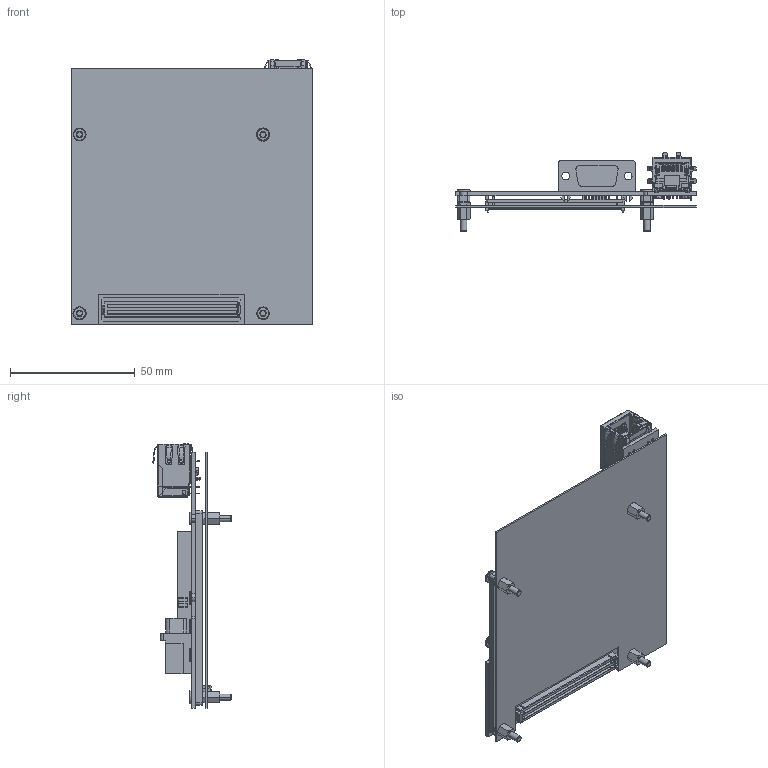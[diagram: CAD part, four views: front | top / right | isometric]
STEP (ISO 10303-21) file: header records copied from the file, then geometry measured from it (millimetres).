
FILE_DESCRIPTION((''),'2;1');
FILE_NAME('CU_SBRIO-9698_ASSY','2018-01-16T',('dkendric'),(''),'CREO PARAMETRIC BY PTC INC, 2015380','CREO PARAMETRIC BY PTC INC, 2015380','');
FILE_SCHEMA(('CONFIG_CONTROL_DESIGN'));
Products named in the file (1): CU_SBRIO-9698_ASSY
Bounding box: 96.67 x 31.67 x 106.32 mm (x, y, z)
Volume: 26483.7 mm3; surface area: 41810.4 mm2
Topology: 5 solids, 8 shells, 2988 faces, 7553 edges, 4760 vertices
Faces by surface type: plane 1870, cylinder 914, bspline 70, cone 64, torus 48, extrusion 12, sphere 10
Entity records: 96681 total; most frequent: CARTESIAN_POINT 25381, ORIENTED_EDGE 15102, DIRECTION 13824, EDGE_CURVE 7551, VECTOR 5724, LINE 5712, VERTEX_POINT 4760, AXIS2_PLACEMENT_3D 4050
